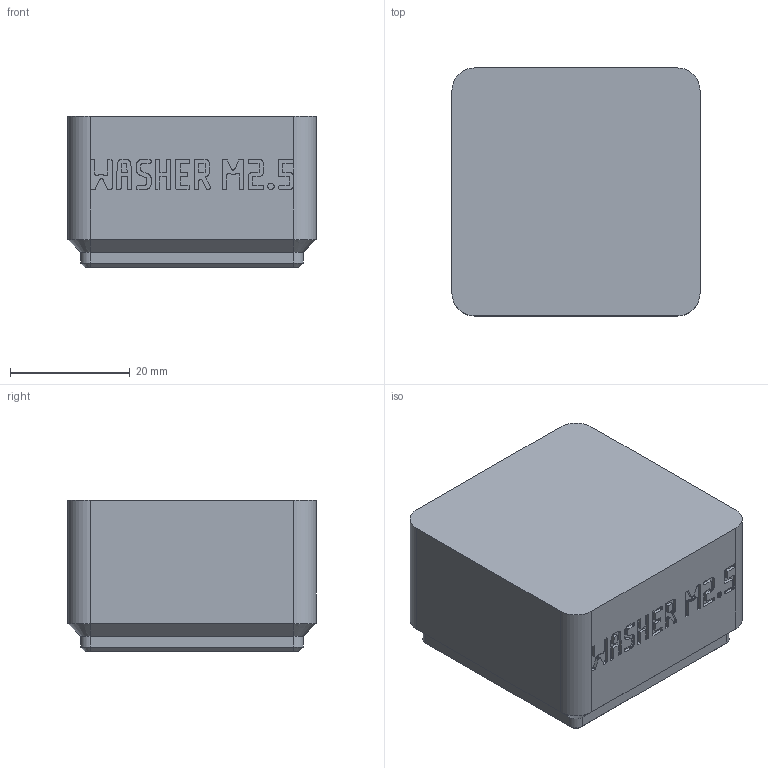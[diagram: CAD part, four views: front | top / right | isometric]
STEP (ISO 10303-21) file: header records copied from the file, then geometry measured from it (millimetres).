
FILE_DESCRIPTION(('Open CASCADE Model'),'2;1');
FILE_NAME('Open CASCADE Shape Model','2026-11-03T16:21:49',('Author'),( 'Open CASCADE'),'Open CASCADE STEP processor 8.0','build123d', 'Unknown');
FILE_SCHEMA(('AUTOMOTIVE_DESIGN { 1 0 10303 214 1 1 1 1 }'));
Products named in the file (1): COMPOUND
Bounding box: 41.5 x 41.5 x 25.4 mm (x, y, z)
Volume: 14650 mm3; surface area: 13627.9 mm2
Topology: 1 solids, 2 shells, 2084 faces, 6125 edges, 4068 vertices
Faces by surface type: plane 2048, cylinder 16, cone 12, bspline 8
Entity records: 147359 total; most frequent: CARTESIAN_POINT 24795, DIRECTION 22426, LINE 18168, VECTOR 18168, ORIENTED_EDGE 12250, PCURVE 12250, DEFINITIONAL_REPRESENTATION 12250, EDGE_CURVE 6125
